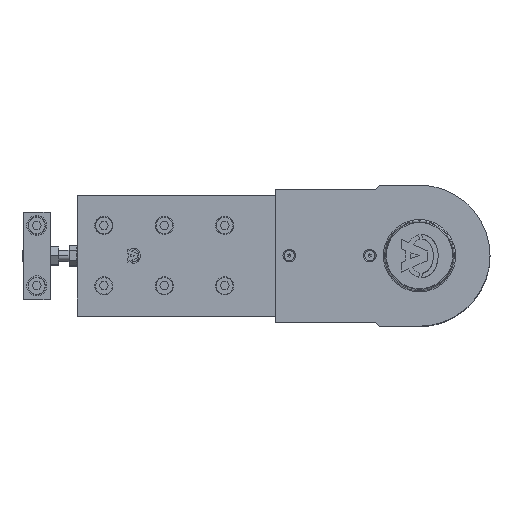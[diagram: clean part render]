
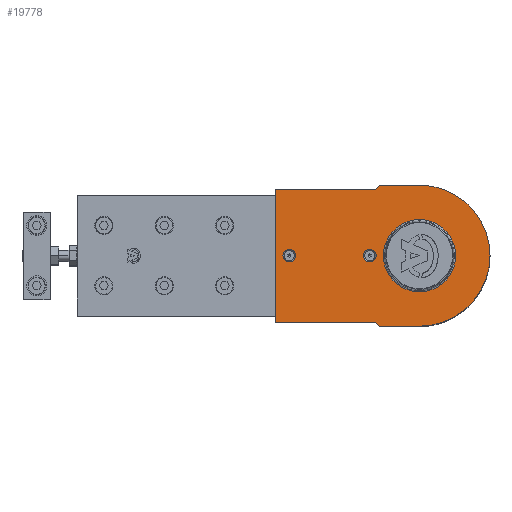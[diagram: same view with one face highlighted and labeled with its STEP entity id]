
A CAD part, top view. The second image highlights one B-rep face of the part: STEP entity #19778.
In plain terms, the highlighted planar face has unit normal (0, 0, 1).
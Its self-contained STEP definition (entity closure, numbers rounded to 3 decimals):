
#2256 = CARTESIAN_POINT ( 'NONE',  ( 92.3, 0., 0. ) ) ;
#5817 = CARTESIAN_POINT ( 'NONE',  ( 107.5, -49.5, 0. ) ) ;
#5818 = DIRECTION ( 'NONE',  ( 0., 1., 0. ) ) ;
#5820 = CARTESIAN_POINT ( 'NONE',  ( 0., 0., 0. ) ) ;
#5821 = DIRECTION ( 'NONE',  ( 0., 0., -1. ) ) ;
#5822 = DIRECTION ( 'NONE',  ( 1., 0., 0. ) ) ;
#5823 = CARTESIAN_POINT ( 'NONE',  ( 107.5, 49.5, 0. ) ) ;
#5824 = DIRECTION ( 'NONE',  ( -1., 0., 0. ) ) ;
#5825 = CARTESIAN_POINT ( 'NONE',  ( 37., 0., 0. ) ) ;
#5826 = DIRECTION ( 'NONE',  ( 0., 0., 1. ) ) ;
#5827 = DIRECTION ( 'NONE',  ( 1., 0., 0. ) ) ;
#5828 = CARTESIAN_POINT ( 'NONE',  ( 30., -52.5, 0. ) ) ;
#5829 = DIRECTION ( 'NONE',  ( 1., 0., 0. ) ) ;
#5830 = CARTESIAN_POINT ( 'NONE',  ( 97., 0., 0. ) ) ;
#5831 = DIRECTION ( 'NONE',  ( 0., 0., 1. ) ) ;
#5832 = DIRECTION ( 'NONE',  ( 1., 0., 0. ) ) ;
#5833 = CARTESIAN_POINT ( 'NONE',  ( 33., 49.5, 0. ) ) ;
#5834 = DIRECTION ( 'NONE',  ( -0.707, 0.707, 0. ) ) ;
#5835 = CARTESIAN_POINT ( 'NONE',  ( 30., 52.5, 0. ) ) ;
#5836 = DIRECTION ( 'NONE',  ( -1., 0., 0. ) ) ;
#5839 = CARTESIAN_POINT ( 'NONE',  ( 0., 0., 0. ) ) ;
#5840 = DIRECTION ( 'NONE',  ( 0., 0., 1. ) ) ;
#5841 = DIRECTION ( 'NONE',  ( 1., 0., 0. ) ) ;
#5842 = CARTESIAN_POINT ( 'NONE',  ( 33., -49.5, 0. ) ) ;
#5843 = DIRECTION ( 'NONE',  ( 0.707, 0.707, 0. ) ) ;
#5844 = CARTESIAN_POINT ( 'NONE',  ( 107.5, -49.5, 0. ) ) ;
#5845 = DIRECTION ( 'NONE',  ( 1., 0., 0. ) ) ;
#7699 = LINE ( 'NONE', #5817, #7702 ) ;
#7701 = CIRCLE ( 'NONE', #17923, 26.933 ) ;
#7702 = VECTOR ( 'NONE', #5818, 1000. ) ;
#7705 = CIRCLE ( 'NONE', #17925, 4.7 ) ;
#7706 = CIRCLE ( 'NONE', #17927, 4.7 ) ;
#7707 = LINE ( 'NONE', #5823, #7709 ) ;
#7708 = LINE ( 'NONE', #5833, #7711 ) ;
#7709 = VECTOR ( 'NONE', #5824, 1000. ) ;
#7710 = LINE ( 'NONE', #5835, #7713 ) ;
#7711 = VECTOR ( 'NONE', #5834, 1000. ) ;
#7712 = CIRCLE ( 'NONE', #17929, 52.5 ) ;
#7713 = VECTOR ( 'NONE', #5836, 1000. ) ;
#7714 = LINE ( 'NONE', #5828, #7716 ) ;
#7715 = LINE ( 'NONE', #5842, #7718 ) ;
#7716 = VECTOR ( 'NONE', #5829, 1000. ) ;
#7717 = LINE ( 'NONE', #5844, #7720 ) ;
#7718 = VECTOR ( 'NONE', #5843, 1000. ) ;
#7720 = VECTOR ( 'NONE', #5845, 1000. ) ;
#9273 = CARTESIAN_POINT ( 'NONE',  ( 37., 0., 0. ) ) ;
#9274 = DIRECTION ( 'NONE',  ( 0., 0., 1. ) ) ;
#9275 = DIRECTION ( 'NONE',  ( 1., 0., 0. ) ) ;
#9281 = CARTESIAN_POINT ( 'NONE',  ( 0., 0., 0. ) ) ;
#9282 = DIRECTION ( 'NONE',  ( 0., 0., -1. ) ) ;
#9283 = DIRECTION ( 'NONE',  ( 1., 0., 0. ) ) ;
#10166 = CARTESIAN_POINT ( 'NONE',  ( 97., 0., 0. ) ) ;
#10168 = DIRECTION ( 'NONE',  ( 0., 0., 1. ) ) ;
#10170 = DIRECTION ( 'NONE',  ( 1., 0., 0. ) ) ;
#10565 = ORIENTED_EDGE ( 'NONE', *, *, #22258, .T. ) ;
#10568 = ORIENTED_EDGE ( 'NONE', *, *, #24346, .T. ) ;
#10570 = ORIENTED_EDGE ( 'NONE', *, *, #24347, .F. ) ;
#10573 = ORIENTED_EDGE ( 'NONE', *, *, #22248, .F. ) ;
#10577 = ORIENTED_EDGE ( 'NONE', *, *, #24348, .F. ) ;
#10580 = ORIENTED_EDGE ( 'NONE', *, *, #22580, .F. ) ;
#10582 = ORIENTED_EDGE ( 'NONE', *, *, #24344, .T. ) ;
#10585 = ORIENTED_EDGE ( 'NONE', *, *, #24349, .T. ) ;
#10589 = ORIENTED_EDGE ( 'NONE', *, *, #24350, .T. ) ;
#10593 = ORIENTED_EDGE ( 'NONE', *, *, #24351, .T. ) ;
#10597 = ORIENTED_EDGE ( 'NONE', *, *, #24352, .T. ) ;
#10600 = ORIENTED_EDGE ( 'NONE', *, *, #24353, .T. ) ;
#10603 = ORIENTED_EDGE ( 'NONE', *, *, #24354, .T. ) ;
#10607 = ORIENTED_EDGE ( 'NONE', *, *, #24355, .T. ) ;
#13416 = CIRCLE ( 'NONE', #16915, 4.7 ) ;
#13419 = CIRCLE ( 'NONE', #16917, 26.933 ) ;
#13881 = CIRCLE ( 'NONE', #17065, 4.7 ) ;
#14637 = DIRECTION ( 'NONE',  ( 0., 0., 1. ) ) ;
#14652 = CARTESIAN_POINT ( 'NONE',  ( 0., 0., 0. ) ) ;
#14655 = PLANE ( 'NONE',  #24148 ) ;
#14657 = DIRECTION ( 'NONE',  ( 1., 0., 0. ) ) ;
#16491 = VERTEX_POINT ( 'NONE', #2256 ) ;
#16552 = VERTEX_POINT ( 'NONE', #23226 ) ;
#16553 = VERTEX_POINT ( 'NONE', #23227 ) ;
#16577 = VERTEX_POINT ( 'NONE', #23251 ) ;
#16579 = VERTEX_POINT ( 'NONE', #23253 ) ;
#16668 = VERTEX_POINT ( 'NONE', #23339 ) ;
#16686 = VERTEX_POINT ( 'NONE', #23357 ) ;
#16688 = VERTEX_POINT ( 'NONE', #23359 ) ;
#16726 = VERTEX_POINT ( 'NONE', #23397 ) ;
#16912 = EDGE_LOOP ( 'NONE', ( #10570, #10573 ) ) ;
#16915 = AXIS2_PLACEMENT_3D ( 'NONE', #9273, #9274, #9275 ) ;
#16917 = AXIS2_PLACEMENT_3D ( 'NONE', #9281, #9282, #9283 ) ;
#16927 = EDGE_LOOP ( 'NONE', ( #10582, #10585, #10589, #10593, #10597, #10600, #10603, #10607 ) ) ;
#17065 = AXIS2_PLACEMENT_3D ( 'NONE', #10166, #10168, #10170 ) ;
#17179 = EDGE_LOOP ( 'NONE', ( #10565, #10568 ) ) ;
#17182 = EDGE_LOOP ( 'NONE', ( #10577, #10580 ) ) ;
#17700 = VERTEX_POINT ( 'NONE', #23490 ) ;
#17923 = AXIS2_PLACEMENT_3D ( 'NONE', #5820, #5821, #5822 ) ;
#17925 = AXIS2_PLACEMENT_3D ( 'NONE', #5825, #5826, #5827 ) ;
#17927 = AXIS2_PLACEMENT_3D ( 'NONE', #5830, #5831, #5832 ) ;
#17929 = AXIS2_PLACEMENT_3D ( 'NONE', #5839, #5840, #5841 ) ;
#17992 = VERTEX_POINT ( 'NONE', #23617 ) ;
#18008 = VERTEX_POINT ( 'NONE', #23627 ) ;
#18084 = VERTEX_POINT ( 'NONE', #23653 ) ;
#18214 = VERTEX_POINT ( 'NONE', #23720 ) ;
#18946 = FACE_BOUND ( 'NONE', #17179, .T. ) ;
#18947 = FACE_BOUND ( 'NONE', #17182, .T. ) ;
#18948 = FACE_OUTER_BOUND ( 'NONE', #16927, .T. ) ;
#18949 = FACE_BOUND ( 'NONE', #16912, .T. ) ;
#19778 = ADVANCED_FACE ( 'NONE', ( #18946, #18949, #18947, #18948 ), #14655, .T. ) ;
#22248 = EDGE_CURVE ( 'NONE', #16579, #16553, #13416, .T. ) ;
#22258 = EDGE_CURVE ( 'NONE', #16686, #18008, #13419, .T. ) ;
#22580 = EDGE_CURVE ( 'NONE', #16491, #16726, #13881, .T. ) ;
#23226 = CARTESIAN_POINT ( 'NONE',  ( 107.5, -49.5, 0. ) ) ;
#23227 = CARTESIAN_POINT ( 'NONE',  ( 41.7, 0., 0. ) ) ;
#23251 = CARTESIAN_POINT ( 'NONE',  ( 30., 52.5, 0. ) ) ;
#23253 = CARTESIAN_POINT ( 'NONE',  ( 32.3, 0., 0. ) ) ;
#23339 = CARTESIAN_POINT ( 'NONE',  ( 107.5, 49.5, 0. ) ) ;
#23357 = CARTESIAN_POINT ( 'NONE',  ( 26.933, 0., 0. ) ) ;
#23359 = CARTESIAN_POINT ( 'NONE',  ( 0., -52.5, 0. ) ) ;
#23397 = CARTESIAN_POINT ( 'NONE',  ( 101.7, 0., 0. ) ) ;
#23490 = CARTESIAN_POINT ( 'NONE',  ( 33., -49.5, 0. ) ) ;
#23617 = CARTESIAN_POINT ( 'NONE',  ( 33., 49.5, 0. ) ) ;
#23627 = CARTESIAN_POINT ( 'NONE',  ( -26.933, 0., 0. ) ) ;
#23653 = CARTESIAN_POINT ( 'NONE',  ( 30., -52.5, 0. ) ) ;
#23720 = CARTESIAN_POINT ( 'NONE',  ( 0., 52.5, 0. ) ) ;
#24148 = AXIS2_PLACEMENT_3D ( 'NONE', #14652, #14637, #14657 ) ;
#24344 = EDGE_CURVE ( 'NONE', #16552, #16668, #7699, .T. ) ;
#24346 = EDGE_CURVE ( 'NONE', #18008, #16686, #7701, .T. ) ;
#24347 = EDGE_CURVE ( 'NONE', #16553, #16579, #7705, .T. ) ;
#24348 = EDGE_CURVE ( 'NONE', #16726, #16491, #7706, .T. ) ;
#24349 = EDGE_CURVE ( 'NONE', #16668, #17992, #7707, .T. ) ;
#24350 = EDGE_CURVE ( 'NONE', #17992, #16577, #7708, .T. ) ;
#24351 = EDGE_CURVE ( 'NONE', #16577, #18214, #7710, .T. ) ;
#24352 = EDGE_CURVE ( 'NONE', #18214, #16688, #7712, .T. ) ;
#24353 = EDGE_CURVE ( 'NONE', #16688, #18084, #7714, .T. ) ;
#24354 = EDGE_CURVE ( 'NONE', #18084, #17700, #7715, .T. ) ;
#24355 = EDGE_CURVE ( 'NONE', #17700, #16552, #7717, .T. ) ;
